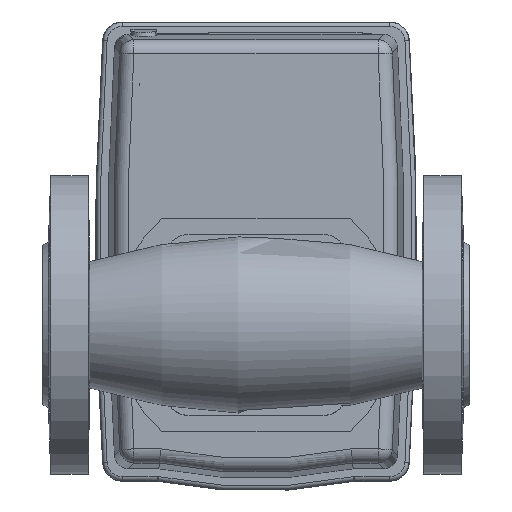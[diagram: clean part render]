
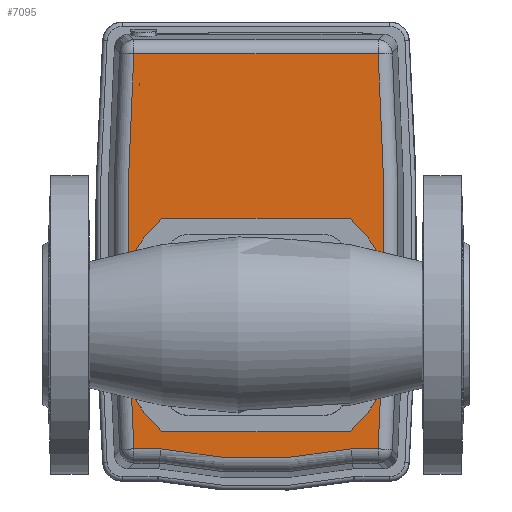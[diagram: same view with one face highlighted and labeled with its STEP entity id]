
A CAD part, top view. The second image highlights one B-rep face of the part: STEP entity #7095.
In plain terms, the highlighted planar face has unit normal (0, 0, 1).
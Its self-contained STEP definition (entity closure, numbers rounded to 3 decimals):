
#355=LINE('',#12148,#684);
#356=LINE('',#12152,#685);
#357=LINE('',#12156,#686);
#358=LINE('',#12160,#687);
#684=VECTOR('',#8623,1000.);
#685=VECTOR('',#8626,1000.);
#686=VECTOR('',#8629,1000.);
#687=VECTOR('',#8632,1000.);
#916=CIRCLE('',#7456,25.358);
#953=CIRCLE('',#7550,1090.687);
#954=CIRCLE('',#7551,163.687);
#955=CIRCLE('',#7552,1090.687);
#956=CIRCLE('',#7553,8.5);
#1859=ORIENTED_EDGE('',*,*,#2835,.T.);
#1860=ORIENTED_EDGE('',*,*,#2952,.F.);
#1861=ORIENTED_EDGE('',*,*,#2953,.T.);
#1862=ORIENTED_EDGE('',*,*,#2954,.F.);
#1863=ORIENTED_EDGE('',*,*,#2955,.T.);
#1864=ORIENTED_EDGE('',*,*,#2956,.F.);
#1865=ORIENTED_EDGE('',*,*,#2957,.T.);
#1866=ORIENTED_EDGE('',*,*,#2958,.T.);
#1867=ORIENTED_EDGE('',*,*,#2959,.T.);
#2835=EDGE_CURVE('',#3486,#3486,#916,.T.);
#2952=EDGE_CURVE('',#3556,#3557,#953,.T.);
#2953=EDGE_CURVE('',#3556,#3558,#355,.T.);
#2954=EDGE_CURVE('',#3559,#3558,#954,.T.);
#2955=EDGE_CURVE('',#3559,#3560,#356,.T.);
#2956=EDGE_CURVE('',#3561,#3560,#955,.T.);
#2957=EDGE_CURVE('',#3561,#3557,#357,.T.);
#2958=EDGE_CURVE('',#3562,#3563,#956,.T.);
#2959=EDGE_CURVE('',#3563,#3562,#358,.T.);
#3486=VERTEX_POINT('',#11902);
#3556=VERTEX_POINT('',#12146);
#3557=VERTEX_POINT('',#12147);
#3558=VERTEX_POINT('',#12149);
#3559=VERTEX_POINT('',#12151);
#3560=VERTEX_POINT('',#12153);
#3561=VERTEX_POINT('',#12155);
#3562=VERTEX_POINT('',#12158);
#3563=VERTEX_POINT('',#12159);
#4049=EDGE_LOOP('',(#1859));
#4050=EDGE_LOOP('',(#1860,#1861,#1862,#1863,#1864,#1865));
#4051=EDGE_LOOP('',(#1866,#1867));
#4452=FACE_BOUND('',#4049,.T.);
#4453=FACE_BOUND('',#4050,.T.);
#4454=FACE_BOUND('',#4051,.T.);
#4722=PLANE('',#7549);
#7095=ADVANCED_FACE('',(#4452,#4453,#4454),#4722,.F.);
#7456=AXIS2_PLACEMENT_3D('',#11901,#8361,#8362);
#7549=AXIS2_PLACEMENT_3D('',#12144,#8619,#8620);
#7550=AXIS2_PLACEMENT_3D('',#12145,#8621,#8622);
#7551=AXIS2_PLACEMENT_3D('',#12150,#8624,#8625);
#7552=AXIS2_PLACEMENT_3D('',#12154,#8627,#8628);
#7553=AXIS2_PLACEMENT_3D('',#12157,#8630,#8631);
#8361=DIRECTION('',(0.,0.,-1.));
#8362=DIRECTION('',(0.,1.,0.));
#8619=DIRECTION('',(0.,0.,-1.));
#8620=DIRECTION('',(0.,1.,0.));
#8621=DIRECTION('',(0.,0.,-1.));
#8622=DIRECTION('',(0.,1.,0.));
#8623=DIRECTION('',(1.,0.,0.));
#8624=DIRECTION('',(0.,0.,-1.));
#8625=DIRECTION('',(0.,1.,0.));
#8626=DIRECTION('',(1.,0.,0.));
#8627=DIRECTION('',(0.,0.,-1.));
#8628=DIRECTION('',(0.,1.,0.));
#8629=DIRECTION('',(-1.,0.,0.));
#8630=DIRECTION('',(0.,0.,-1.));
#8631=DIRECTION('',(-1.,0.,0.));
#8632=DIRECTION('',(0.,-1.,0.));
#11901=CARTESIAN_POINT('',(-107.719,1.009,-131.17));
#11902=CARTESIAN_POINT('',(-107.719,26.366,-131.17));
#12144=CARTESIAN_POINT('',(937.794,27.255,-131.17));
#12145=CARTESIAN_POINT('',(937.794,27.255,-131.17));
#12146=CARTESIAN_POINT('',(-150.68,-42.186,-131.17));
#12147=CARTESIAN_POINT('',(-150.68,96.696,-131.17));
#12148=CARTESIAN_POINT('',(937.794,-42.186,-131.17));
#12149=CARTESIAN_POINT('',(-141.173,-42.186,-131.17));
#12150=CARTESIAN_POINT('',(-107.719,118.046,-131.17));
#12151=CARTESIAN_POINT('',(-74.265,-42.186,-131.17));
#12152=CARTESIAN_POINT('',(937.794,-42.186,-131.17));
#12153=CARTESIAN_POINT('',(-64.758,-42.186,-131.17));
#12154=CARTESIAN_POINT('',(-1153.232,27.255,-131.17));
#12155=CARTESIAN_POINT('',(-64.758,96.696,-131.17));
#12156=CARTESIAN_POINT('',(937.794,96.696,-131.17));
#12157=CARTESIAN_POINT('',(-140.219,86.009,-131.17));
#12158=CARTESIAN_POINT('',(-148.709,85.603,-131.17));
#12159=CARTESIAN_POINT('',(-148.709,86.414,-131.17));
#12160=CARTESIAN_POINT('',(-148.709,95.66,-131.17));
